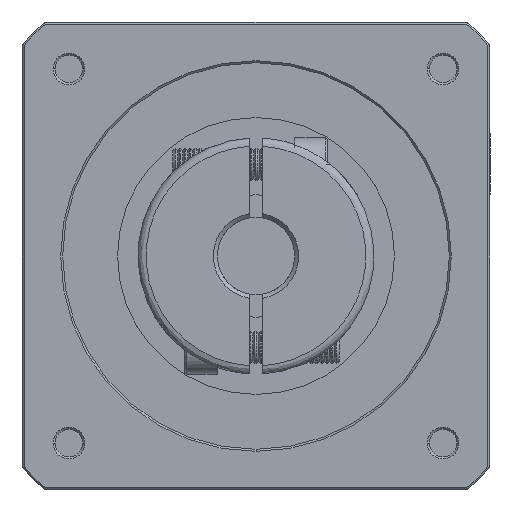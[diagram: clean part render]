
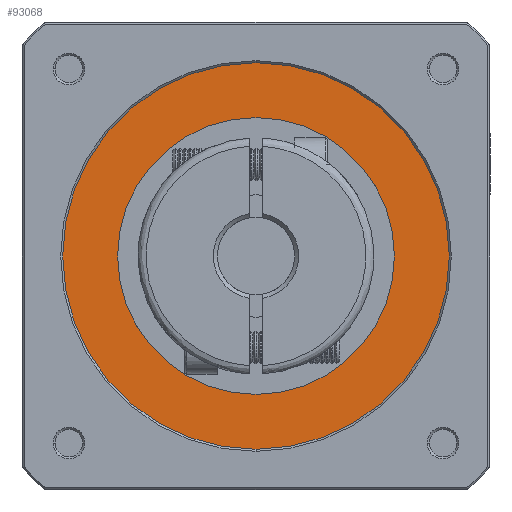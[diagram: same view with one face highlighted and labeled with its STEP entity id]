
A CAD part, front view. The second image highlights one B-rep face of the part: STEP entity #93068.
In plain terms, the highlighted planar face has unit normal (0, 1, 0).
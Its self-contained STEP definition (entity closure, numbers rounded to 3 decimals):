
#1094 = DIRECTION ( 'NONE',  ( 0., 1., 0. ) ) ;
#1465 = FACE_OUTER_BOUND ( 'NONE', #75013, .T. ) ;
#3449 = ORIENTED_EDGE ( 'NONE', *, *, #46797, .T. ) ;
#6475 = ORIENTED_EDGE ( 'NONE', *, *, #23410, .T. ) ;
#6893 = CARTESIAN_POINT ( 'NONE',  ( 0., -169.111, 47.5 ) ) ;
#7802 = EDGE_CURVE ( 'NONE', #91854, #49180, #98596, .T. ) ;
#14935 = FACE_BOUND ( 'NONE', #72457, .T. ) ;
#20471 = CARTESIAN_POINT ( 'NONE',  ( -48.07, -169.111, -48.07 ) ) ;
#23410 = EDGE_CURVE ( 'NONE', #49180, #91854, #82335, .T. ) ;
#24228 = DIRECTION ( 'NONE',  ( 0., -1., 0. ) ) ;
#24944 = DIRECTION ( 'NONE',  ( 0., 1., 0. ) ) ;
#28322 = DIRECTION ( 'NONE',  ( 1., 0., 0. ) ) ;
#36295 = VERTEX_POINT ( 'NONE', #99685 ) ;
#38133 = AXIS2_PLACEMENT_3D ( 'NONE', #20471, #75180, #28322 ) ;
#39091 = ORIENTED_EDGE ( 'NONE', *, *, #69271, .T. ) ;
#40914 = CARTESIAN_POINT ( 'NONE',  ( 0., -169.111, 0. ) ) ;
#41246 = ORIENTED_EDGE ( 'NONE', *, *, #7802, .T. ) ;
#46104 = VERTEX_POINT ( 'NONE', #77032 ) ;
#46797 = EDGE_CURVE ( 'NONE', #36295, #46104, #94906, .T. ) ;
#47980 = CARTESIAN_POINT ( 'NONE',  ( 0., -169.111, 0. ) ) ;
#48626 = AXIS2_PLACEMENT_3D ( 'NONE', #71786, #24944, #79673 ) ;
#48769 = DIRECTION ( 'NONE',  ( 0., 0., 1. ) ) ;
#49180 = VERTEX_POINT ( 'NONE', #98661 ) ;
#55859 = DIRECTION ( 'NONE',  ( 0., 0., -1. ) ) ;
#58755 = AXIS2_PLACEMENT_3D ( 'NONE', #40914, #95615, #48769 ) ;
#69271 = EDGE_CURVE ( 'NONE', #46104, #36295, #79875, .T. ) ;
#71046 = CARTESIAN_POINT ( 'NONE',  ( 0., -169.111, 0. ) ) ;
#71786 = CARTESIAN_POINT ( 'NONE',  ( 0., -169.111, 0. ) ) ;
#72080 = AXIS2_PLACEMENT_3D ( 'NONE', #71046, #24228, #78941 ) ;
#72457 = EDGE_LOOP ( 'NONE', ( #3449, #39091 ) ) ;
#75013 = EDGE_LOOP ( 'NONE', ( #6475, #41246 ) ) ;
#75180 = DIRECTION ( 'NONE',  ( 0., -1., 0. ) ) ;
#77032 = CARTESIAN_POINT ( 'NONE',  ( 0., -169.111, -34. ) ) ;
#78941 = DIRECTION ( 'NONE',  ( 0., 0., 1. ) ) ;
#79673 = DIRECTION ( 'NONE',  ( 0., 0., -1. ) ) ;
#79875 = CIRCLE ( 'NONE', #72080, 34. ) ;
#82335 = CIRCLE ( 'NONE', #89742, 47.5 ) ;
#89742 = AXIS2_PLACEMENT_3D ( 'NONE', #47980, #1094, #55859 ) ;
#90523 = PLANE ( 'NONE',  #38133 ) ;
#91854 = VERTEX_POINT ( 'NONE', #6893 ) ;
#93068 = ADVANCED_FACE ( 'NONE', ( #14935, #1465 ), #90523, .F. ) ;
#94906 = CIRCLE ( 'NONE', #58755, 34. ) ;
#95615 = DIRECTION ( 'NONE',  ( 0., -1., 0. ) ) ;
#98596 = CIRCLE ( 'NONE', #48626, 47.5 ) ;
#98661 = CARTESIAN_POINT ( 'NONE',  ( 0., -169.111, -47.5 ) ) ;
#99685 = CARTESIAN_POINT ( 'NONE',  ( 0., -169.111, 34. ) ) ;
